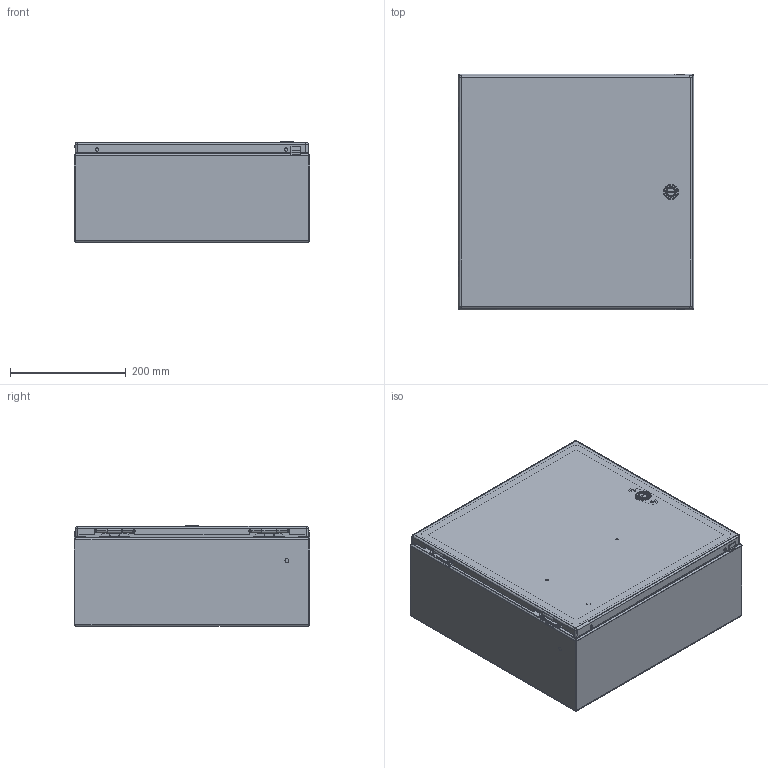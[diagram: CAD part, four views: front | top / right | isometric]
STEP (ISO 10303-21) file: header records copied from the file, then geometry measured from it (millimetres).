
FILE_DESCRIPTION (( 'STEP AP203' ), '1' );
FILE_NAME ('csd16166.STEP', '2012-05-09T17:26:06', ( 'User' ), ( 'Pentair Inc' ), 'SwSTEP 2.0', 'SolidWorks 2010', '' );
FILE_SCHEMA (( 'CONFIG_CONTROL_DESIGN' ));
Length unit declared in the file: inch
Products named in the file (27): 87934361_default; 23271001_After Weld; 87937919_assy; 87937959_weldment; 87937907; 99401225; 87931362_87931362; 64101001; 64201001; 87541994_Installed Height; 87541995; 64202001; 64210001; 64203001; 87927840_87927840; 87932903; 64138001; csd16166; 87934506; 87937997; 87543027; 89076399; 89076193; 89056623; 87929507; 87929767; 87929769_Installed on Pin
Assembly tree (38 placements, depth 4):
  csd16166
    87929507  x2
      87929769_Installed on Pin
      87929767
    89076399  x2
      89076193
      89056623
    87543027  x2
    87937919_assy
      87932903  x2
      64101001
        64203001
        87927840_87927840
        87541994_Installed Height
        64201001
        64210001
        87541995
        64202001
      87937959_weldment
        87937907
        87931362_87931362  x4
        99401225
      87937997
      64138001  x2
    87934506
      87934361_default
      23271001_After Weld  x4
      99401225
Bounding box: 406.4 x 407.13 x 173.1 mm (x, y, z)
Volume: 932237.1 mm3; surface area: 1387763.6 mm2
Topology: 35 solids, 35 shells, 1689 faces, 4125 edges, 2490 vertices
Faces by surface type: plane 652, cylinder 547, bspline 288, torus 106, cone 88, sphere 8
Entity records: 46223 total; most frequent: CARTESIAN_POINT 16302, ORIENTED_EDGE 5874, DIRECTION 5117, EDGE_CURVE 2937, AXIS2_PLACEMENT_3D 1833, VERTEX_POINT 1802, VECTOR 1451, LINE 1451
